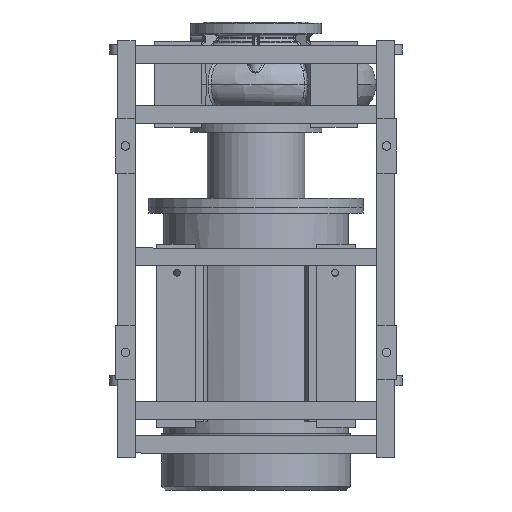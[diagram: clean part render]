
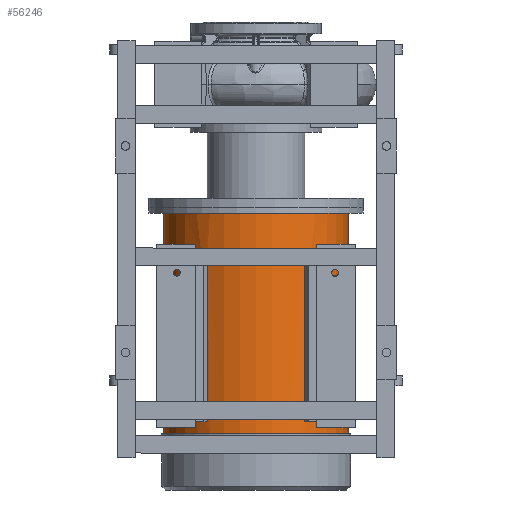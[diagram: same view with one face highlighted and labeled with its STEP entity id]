
A CAD part, front view. The second image highlights one B-rep face of the part: STEP entity #56246.
In plain terms, the highlighted cylindrical face has radius 237.5 mm (diameter 475 mm), a partial arc.
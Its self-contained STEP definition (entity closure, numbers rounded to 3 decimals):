
#2307 = CARTESIAN_POINT ( 'NONE',  ( -237.5, 0., -330.8 ) ) ;
#4343 = EDGE_CURVE ( 'NONE', #11928, #29734, #7487, .T. ) ;
#6667 = CARTESIAN_POINT ( 'NONE',  ( 0., 0., -440.8 ) ) ;
#6955 = CIRCLE ( 'NONE', #33479, 237.5 ) ;
#7262 = EDGE_CURVE ( 'NONE', #74416, #53363, #77630, .T. ) ;
#7487 = LINE ( 'NONE', #39266, #19971 ) ;
#7654 = EDGE_CURVE ( 'NONE', #85801, #41120, #57188, .T. ) ;
#7918 = VECTOR ( 'NONE', #34087, 1000. ) ;
#7936 = DIRECTION ( 'NONE',  ( 0., 0., -1. ) ) ;
#8067 = VECTOR ( 'NONE', #53462, 1000. ) ;
#8826 = DIRECTION ( 'NONE',  ( -1., 0., 0. ) ) ;
#9421 = DIRECTION ( 'NONE',  ( 0., 0., 1. ) ) ;
#10003 = CARTESIAN_POINT ( 'NONE',  ( -237.5, 0., -1040.8 ) ) ;
#10775 = AXIS2_PLACEMENT_3D ( 'NONE', #28923, #71458, #21360 ) ;
#10834 = EDGE_CURVE ( 'NONE', #29734, #43826, #64862, .T. ) ;
#11447 = CARTESIAN_POINT ( 'NONE',  ( 124.801, -202.067, -865.8 ) ) ;
#11928 = VERTEX_POINT ( 'NONE', #34034 ) ;
#12258 = ORIENTED_EDGE ( 'NONE', *, *, #42695, .F. ) ;
#13125 = EDGE_LOOP ( 'NONE', ( #47286, #67412, #15270, #26488 ) ) ;
#15270 = ORIENTED_EDGE ( 'NONE', *, *, #7262, .T. ) ;
#15722 = EDGE_LOOP ( 'NONE', ( #87367, #80690, #56509, #12258 ) ) ;
#16206 = FACE_BOUND ( 'NONE', #13125, .T. ) ;
#16720 = DIRECTION ( 'NONE',  ( -1., 0., 0. ) ) ;
#17051 = DIRECTION ( 'NONE',  ( 0., 0., 1. ) ) ;
#17601 = CARTESIAN_POINT ( 'NONE',  ( -139.779, -192.01, -865.8 ) ) ;
#17715 = DIRECTION ( 'NONE',  ( 0., 0., -1. ) ) ;
#19573 = FACE_BOUND ( 'NONE', #15722, .T. ) ;
#19971 = VECTOR ( 'NONE', #17715, 1000. ) ;
#20871 = CARTESIAN_POINT ( 'NONE',  ( 124.801, -202.067, -440.8 ) ) ;
#21026 = EDGE_CURVE ( 'NONE', #77195, #74416, #70228, .T. ) ;
#21360 = DIRECTION ( 'NONE',  ( 1., 0., 0. ) ) ;
#21775 = VERTEX_POINT ( 'NONE', #75895 ) ;
#22417 = DIRECTION ( 'NONE',  ( -1., 0., 0. ) ) ;
#23825 = ORIENTED_EDGE ( 'NONE', *, *, #34847, .T. ) ;
#26488 = ORIENTED_EDGE ( 'NONE', *, *, #60319, .T. ) ;
#27078 = LINE ( 'NONE', #36800, #39523 ) ;
#27678 = EDGE_LOOP ( 'NONE', ( #92352, #73179, #23825, #58588 ) ) ;
#28923 = CARTESIAN_POINT ( 'NONE',  ( 0., 0., -865.8 ) ) ;
#29469 = LINE ( 'NONE', #77827, #7918 ) ;
#29734 = VERTEX_POINT ( 'NONE', #74173 ) ;
#30670 = CARTESIAN_POINT ( 'NONE',  ( 0., 0., -440.8 ) ) ;
#32485 = CARTESIAN_POINT ( 'NONE',  ( -124.801, -202.067, -1040.8 ) ) ;
#32921 = AXIS2_PLACEMENT_3D ( 'NONE', #82175, #67331, #89472 ) ;
#33185 = CYLINDRICAL_SURFACE ( 'NONE', #57226, 237.5 ) ;
#33479 = AXIS2_PLACEMENT_3D ( 'NONE', #46799, #9421, #16720 ) ;
#34034 = CARTESIAN_POINT ( 'NONE',  ( 237.5, 0., -330.8 ) ) ;
#34087 = DIRECTION ( 'NONE',  ( 0., 0., -1. ) ) ;
#34784 = EDGE_CURVE ( 'NONE', #85801, #40444, #75023, .T. ) ;
#34847 = EDGE_CURVE ( 'NONE', #46275, #43826, #60282, .T. ) ;
#34892 = CARTESIAN_POINT ( 'NONE',  ( 124.801, -202.067, -1040.8 ) ) ;
#35081 = CARTESIAN_POINT ( 'NONE',  ( 139.779, -192.01, -440.8 ) ) ;
#35458 = EDGE_CURVE ( 'NONE', #11928, #46275, #40888, .T. ) ;
#36800 = CARTESIAN_POINT ( 'NONE',  ( -139.779, -192.01, -1040.8 ) ) ;
#38099 = EDGE_CURVE ( 'NONE', #56924, #41120, #27078, .T. ) ;
#38217 = CIRCLE ( 'NONE', #90935, 237.5 ) ;
#39266 = CARTESIAN_POINT ( 'NONE',  ( 237.5, 0., -1040.8 ) ) ;
#39523 = VECTOR ( 'NONE', #7936, 1000. ) ;
#40444 = VERTEX_POINT ( 'NONE', #90618 ) ;
#40888 = CIRCLE ( 'NONE', #62076, 237.5 ) ;
#41120 = VERTEX_POINT ( 'NONE', #17601 ) ;
#42200 = DIRECTION ( 'NONE',  ( 0., 0., -1. ) ) ;
#42564 = DIRECTION ( 'NONE',  ( -1., 0., 0. ) ) ;
#42695 = EDGE_CURVE ( 'NONE', #40444, #56924, #38217, .T. ) ;
#43826 = VERTEX_POINT ( 'NONE', #69478 ) ;
#45552 = VECTOR ( 'NONE', #68666, 1000. ) ;
#46275 = VERTEX_POINT ( 'NONE', #2307 ) ;
#46799 = CARTESIAN_POINT ( 'NONE',  ( 0., 0., -865.8 ) ) ;
#47286 = ORIENTED_EDGE ( 'NONE', *, *, #79032, .F. ) ;
#50488 = CARTESIAN_POINT ( 'NONE',  ( 0., 0., -1040.8 ) ) ;
#50959 = VECTOR ( 'NONE', #92271, 1000. ) ;
#51262 = DIRECTION ( 'NONE',  ( 0., 0., -1. ) ) ;
#53363 = VERTEX_POINT ( 'NONE', #35081 ) ;
#53462 = DIRECTION ( 'NONE',  ( 0., 0., 1. ) ) ;
#56246 = ADVANCED_FACE ( 'NONE', ( #86519, #16206, #19573 ), #33185, .T. ) ;
#56509 = ORIENTED_EDGE ( 'NONE', *, *, #38099, .F. ) ;
#56924 = VERTEX_POINT ( 'NONE', #78780 ) ;
#57188 = CIRCLE ( 'NONE', #10775, 237.5 ) ;
#57226 = AXIS2_PLACEMENT_3D ( 'NONE', #50488, #64448, #42564 ) ;
#57400 = DIRECTION ( 'NONE',  ( 1., 0., 0. ) ) ;
#58588 = ORIENTED_EDGE ( 'NONE', *, *, #10834, .F. ) ;
#60282 = LINE ( 'NONE', #10003, #45552 ) ;
#60319 = EDGE_CURVE ( 'NONE', #53363, #21775, #29469, .T. ) ;
#62062 = CARTESIAN_POINT ( 'NONE',  ( -124.801, -202.067, -865.8 ) ) ;
#62076 = AXIS2_PLACEMENT_3D ( 'NONE', #87716, #51262, #22417 ) ;
#64312 = AXIS2_PLACEMENT_3D ( 'NONE', #30670, #17051, #8826 ) ;
#64448 = DIRECTION ( 'NONE',  ( 0., 0., -1. ) ) ;
#64862 = CIRCLE ( 'NONE', #32921, 237.5 ) ;
#67331 = DIRECTION ( 'NONE',  ( 0., 0., -1. ) ) ;
#67412 = ORIENTED_EDGE ( 'NONE', *, *, #21026, .T. ) ;
#68666 = DIRECTION ( 'NONE',  ( 0., 0., -1. ) ) ;
#69478 = CARTESIAN_POINT ( 'NONE',  ( -237.5, 0., -896.8 ) ) ;
#70228 = LINE ( 'NONE', #34892, #50959 ) ;
#71458 = DIRECTION ( 'NONE',  ( 0., 0., -1. ) ) ;
#73179 = ORIENTED_EDGE ( 'NONE', *, *, #35458, .T. ) ;
#74173 = CARTESIAN_POINT ( 'NONE',  ( 237.5, 0., -896.8 ) ) ;
#74416 = VERTEX_POINT ( 'NONE', #20871 ) ;
#75023 = LINE ( 'NONE', #32485, #8067 ) ;
#75895 = CARTESIAN_POINT ( 'NONE',  ( 139.779, -192.01, -865.8 ) ) ;
#77195 = VERTEX_POINT ( 'NONE', #11447 ) ;
#77630 = CIRCLE ( 'NONE', #64312, 237.5 ) ;
#77827 = CARTESIAN_POINT ( 'NONE',  ( 139.779, -192.01, -1040.8 ) ) ;
#78780 = CARTESIAN_POINT ( 'NONE',  ( -139.779, -192.01, -440.8 ) ) ;
#79032 = EDGE_CURVE ( 'NONE', #77195, #21775, #6955, .T. ) ;
#80690 = ORIENTED_EDGE ( 'NONE', *, *, #7654, .T. ) ;
#82175 = CARTESIAN_POINT ( 'NONE',  ( 0., 0., -896.8 ) ) ;
#85801 = VERTEX_POINT ( 'NONE', #62062 ) ;
#86519 = FACE_OUTER_BOUND ( 'NONE', #27678, .T. ) ;
#87367 = ORIENTED_EDGE ( 'NONE', *, *, #34784, .F. ) ;
#87716 = CARTESIAN_POINT ( 'NONE',  ( 0., 0., -330.8 ) ) ;
#89472 = DIRECTION ( 'NONE',  ( -1., 0., 0. ) ) ;
#90618 = CARTESIAN_POINT ( 'NONE',  ( -124.801, -202.067, -440.8 ) ) ;
#90935 = AXIS2_PLACEMENT_3D ( 'NONE', #6667, #42200, #57400 ) ;
#92271 = DIRECTION ( 'NONE',  ( 0., 0., 1. ) ) ;
#92352 = ORIENTED_EDGE ( 'NONE', *, *, #4343, .F. ) ;
